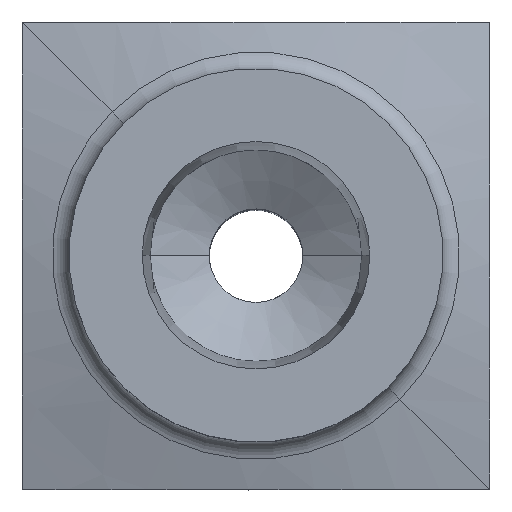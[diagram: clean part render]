
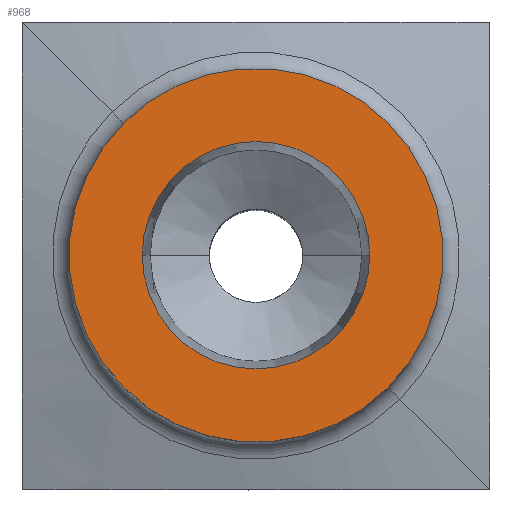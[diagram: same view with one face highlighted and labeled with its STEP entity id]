
A CAD part, top view. The second image highlights one B-rep face of the part: STEP entity #968.
In plain terms, the highlighted planar face has unit normal (0, 0, 1).
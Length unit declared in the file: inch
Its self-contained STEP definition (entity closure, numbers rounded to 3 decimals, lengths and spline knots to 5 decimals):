
#303=CARTESIAN_POINT('',(0.,0.,2.81));
#304=DIRECTION('',(0.,0.,1.));
#305=DIRECTION('',(0.707,-0.707,0.));
#306=AXIS2_PLACEMENT_3D('',#303,#304,#305);
#308=CARTESIAN_POINT('',(0.,0.,2.81));
#309=DIRECTION('',(0.,0.,1.));
#310=DIRECTION('',(-0.707,0.707,0.));
#311=AXIS2_PLACEMENT_3D('',#308,#309,#310);
#313=CARTESIAN_POINT('',(0.,0.,2.81));
#314=DIRECTION('',(0.,0.,-1.));
#315=DIRECTION('',(-1.,0.,0.));
#316=AXIS2_PLACEMENT_3D('',#313,#314,#315);
#318=CARTESIAN_POINT('',(0.,0.,2.81));
#319=DIRECTION('',(0.,0.,-1.));
#320=DIRECTION('',(1.,0.,0.));
#321=AXIS2_PLACEMENT_3D('',#318,#319,#320);
#561=CARTESIAN_POINT('',(0.35355,-0.35355,2.81));
#562=CARTESIAN_POINT('',(-0.35355,0.35355,2.81));
#563=VERTEX_POINT('',#561);
#564=VERTEX_POINT('',#562);
#595=CARTESIAN_POINT('',(-0.30427,0.,2.81));
#596=CARTESIAN_POINT('',(0.30427,0.,2.81));
#597=VERTEX_POINT('',#595);
#598=VERTEX_POINT('',#596);
#953=CARTESIAN_POINT('',(0.,0.,2.81));
#954=DIRECTION('',(0.,0.,1.));
#955=DIRECTION('',(1.,0.,0.));
#956=AXIS2_PLACEMENT_3D('',#953,#954,#955);
#957=PLANE('',#956);
#958=ORIENTED_EDGE('',*,*,#947,.F.);
#959=ORIENTED_EDGE('',*,*,#933,.F.);
#960=EDGE_LOOP('',(#958,#959));
#961=FACE_OUTER_BOUND('',#960,.F.);
#963=ORIENTED_EDGE('',*,*,#962,.F.);
#965=ORIENTED_EDGE('',*,*,#964,.F.);
#966=EDGE_LOOP('',(#963,#965));
#967=FACE_BOUND('',#966,.F.);
#968=ADVANCED_FACE('',(#961,#967),#957,.T.);
#307=CIRCLE('',#306,0.5);
#312=CIRCLE('',#311,0.5);
#317=CIRCLE('',#316,0.30427);
#322=CIRCLE('',#321,0.30427);
#933=EDGE_CURVE('',#564,#563,#312,.T.);
#947=EDGE_CURVE('',#563,#564,#307,.T.);
#962=EDGE_CURVE('',#597,#598,#317,.T.);
#964=EDGE_CURVE('',#598,#597,#322,.T.);
